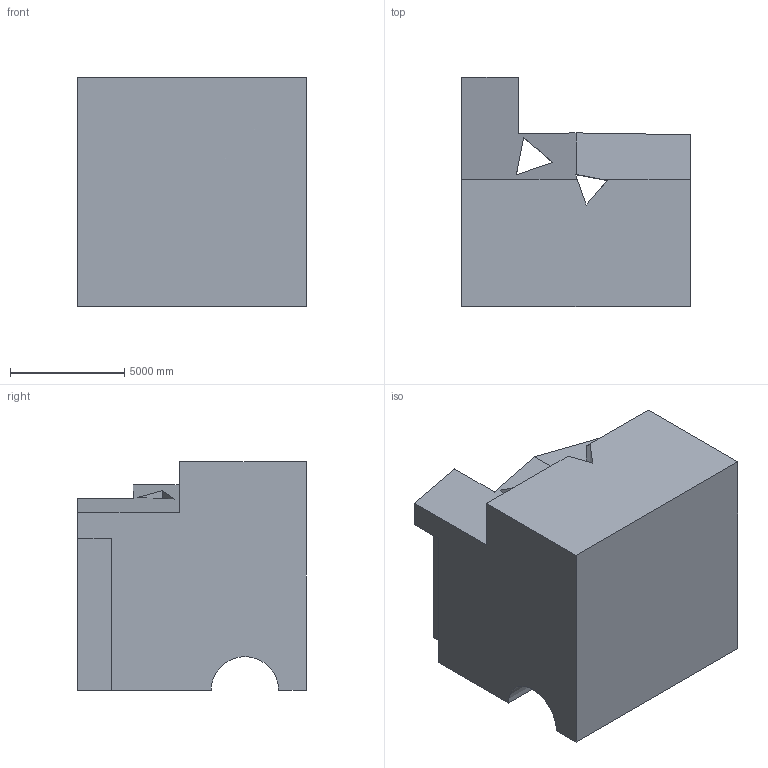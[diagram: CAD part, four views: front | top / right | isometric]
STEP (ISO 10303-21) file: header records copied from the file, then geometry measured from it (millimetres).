
FILE_DESCRIPTION (( 'STEP AP203' ), '1' );
FILE_NAME ('655.STEP', '2022-07-29T12:20:13', ( 'user' ), ( '' ), 'SwSTEP 2.0', 'SolidWorks 2021', '' );
FILE_SCHEMA (( 'CONFIG_CONTROL_DESIGN' ));
Length unit declared in the file: centimetre
Products named in the file (1): 655
Bounding box: 10000 x 10000 x 10000 mm (x, y, z)
Volume: 659151194147.1 mm3; surface area: 668852677.1 mm2
Topology: 1 solids, 1 shells, 35 faces, 117 edges, 78 vertices
Faces by surface type: plane 29, cylinder 6
Entity records: 1364 total; most frequent: CARTESIAN_POINT 273, ORIENTED_EDGE 234, DIRECTION 191, EDGE_CURVE 117, VECTOR 87, LINE 87, VERTEX_POINT 78, AXIS2_PLACEMENT_3D 52
